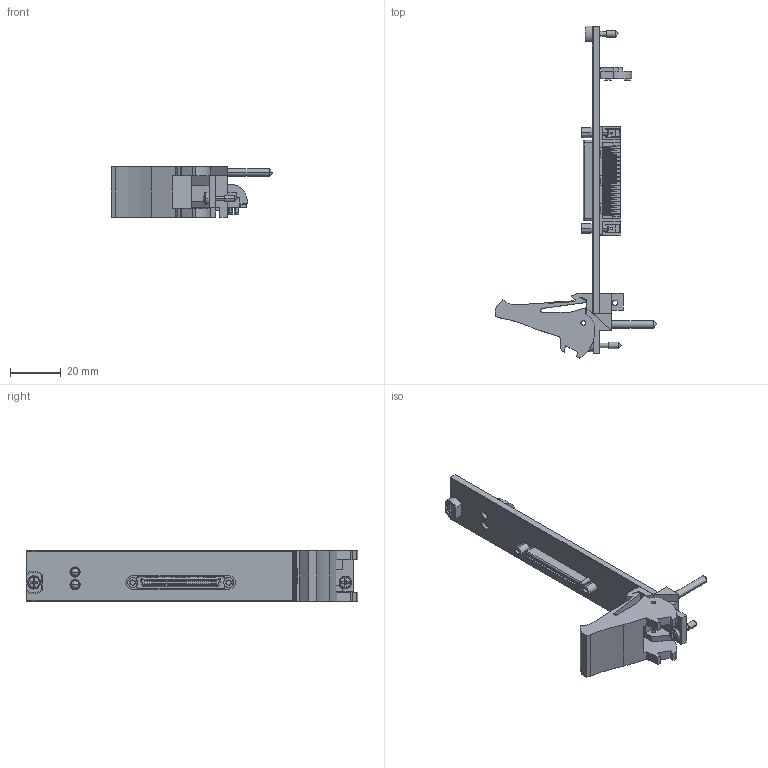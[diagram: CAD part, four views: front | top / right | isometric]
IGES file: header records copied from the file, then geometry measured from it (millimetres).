
Start section:  PTC IGES file: cu_pxie-6535.igs
Global section: file name: cu_pxie-6535.igs; native system: Pro/ENGINEER by Parametric Technology Corporation; preprocessor: 2006080; author: jjorden; organization: Unknown; date: 091228.134246; units: inch
Bounding box: 63.53 x 130.5 x 20.02 mm (x, y, z)
Surface area: 14974.4 mm2 (no closed solid volume)
Topology: 0 solids, 0 shells, 1976 faces, 10708 edges, 10700 vertices
Faces by surface type: bspline 1585, revolution 391
